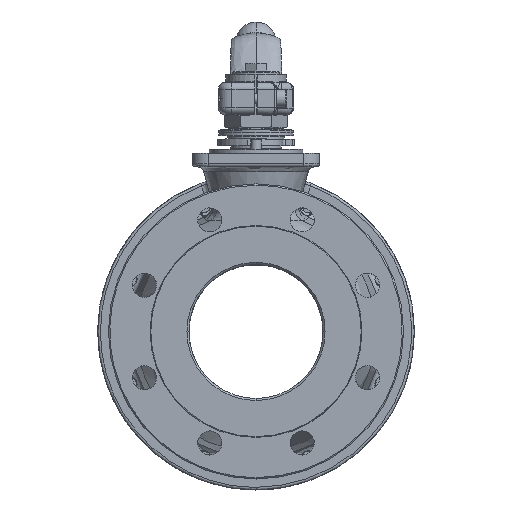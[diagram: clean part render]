
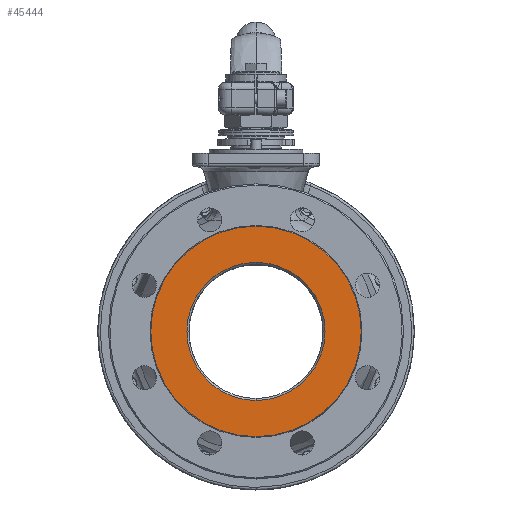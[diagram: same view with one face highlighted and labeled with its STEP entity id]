
A CAD part, top view. The second image highlights one B-rep face of the part: STEP entity #45444.
In plain terms, the highlighted planar face has unit normal (0, 0, 1) as drawn and (0, -1, 0) by its records, which use the part's own axes.
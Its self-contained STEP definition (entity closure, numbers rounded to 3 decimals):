
#349 = ORIENTED_EDGE ( 'NONE', *, *, #45231, .T. ) ;
#1739 = DIRECTION ( 'NONE',  ( -1., 0., 0. ) ) ;
#2448 = FACE_BOUND ( 'NONE', #12939, .T. ) ;
#4398 = CIRCLE ( 'NONE', #8166, 78.464 ) ;
#6630 = AXIS2_PLACEMENT_3D ( 'NONE', #27387, #12283, #46643 ) ;
#7354 = DIRECTION ( 'NONE',  ( 0., 0., -1. ) ) ;
#7522 = ORIENTED_EDGE ( 'NONE', *, *, #40024, .F. ) ;
#8166 = AXIS2_PLACEMENT_3D ( 'NONE', #21146, #47722, #1739 ) ;
#9576 = CIRCLE ( 'NONE', #11995, 51.5 ) ;
#11995 = AXIS2_PLACEMENT_3D ( 'NONE', #18593, #25796, #7354 ) ;
#12243 = CARTESIAN_POINT ( 'NONE',  ( -78.47, -69., -8.964 ) ) ;
#12283 = DIRECTION ( 'NONE',  ( 0., -1., 0. ) ) ;
#12939 = EDGE_LOOP ( 'NONE', ( #7522, #30259 ) ) ;
#13701 = DIRECTION ( 'NONE',  ( 0., 0., -1. ) ) ;
#16919 = VERTEX_POINT ( 'NONE', #42015 ) ;
#17188 = AXIS2_PLACEMENT_3D ( 'NONE', #47918, #36935, #13701 ) ;
#17343 = ORIENTED_EDGE ( 'NONE', *, *, #36665, .T. ) ;
#18593 = CARTESIAN_POINT ( 'NONE',  ( -0.006, -69., -8.964 ) ) ;
#19850 = EDGE_CURVE ( 'NONE', #40172, #20588, #31546, .T. ) ;
#20160 = DIRECTION ( 'NONE',  ( 0., -1., 0. ) ) ;
#20334 = CARTESIAN_POINT ( 'NONE',  ( -0.006, -69., -8.964 ) ) ;
#20588 = VERTEX_POINT ( 'NONE', #46540 ) ;
#21146 = CARTESIAN_POINT ( 'NONE',  ( -0.006, -69., -8.964 ) ) ;
#25796 = DIRECTION ( 'NONE',  ( 0., -1., 0. ) ) ;
#27106 = CARTESIAN_POINT ( 'NONE',  ( -0.006, -69., 42.536 ) ) ;
#27387 = CARTESIAN_POINT ( 'NONE',  ( -0.006, -69., -8.964 ) ) ;
#28830 = PLANE ( 'NONE',  #17188 ) ;
#30259 = ORIENTED_EDGE ( 'NONE', *, *, #19850, .F. ) ;
#30951 = DIRECTION ( 'NONE',  ( -1., 0., 0. ) ) ;
#31546 = CIRCLE ( 'NONE', #6630, 51.5 ) ;
#32765 = AXIS2_PLACEMENT_3D ( 'NONE', #20334, #20160, #30951 ) ;
#36665 = EDGE_CURVE ( 'NONE', #47538, #16919, #4398, .T. ) ;
#36935 = DIRECTION ( 'NONE',  ( 0., -1., 0. ) ) ;
#37469 = FACE_OUTER_BOUND ( 'NONE', #44153, .T. ) ;
#40024 = EDGE_CURVE ( 'NONE', #20588, #40172, #9576, .T. ) ;
#40172 = VERTEX_POINT ( 'NONE', #27106 ) ;
#42015 = CARTESIAN_POINT ( 'NONE',  ( 78.458, -69., -8.964 ) ) ;
#44153 = EDGE_LOOP ( 'NONE', ( #17343, #349 ) ) ;
#44670 = CIRCLE ( 'NONE', #32765, 78.464 ) ;
#45231 = EDGE_CURVE ( 'NONE', #16919, #47538, #44670, .T. ) ;
#45444 = ADVANCED_FACE ( 'NONE', ( #2448, #37469 ), #28830, .T. ) ;
#46540 = CARTESIAN_POINT ( 'NONE',  ( -0.006, -69., -60.464 ) ) ;
#46643 = DIRECTION ( 'NONE',  ( 0., 0., -1. ) ) ;
#47538 = VERTEX_POINT ( 'NONE', #12243 ) ;
#47722 = DIRECTION ( 'NONE',  ( 0., -1., 0. ) ) ;
#47918 = CARTESIAN_POINT ( 'NONE',  ( -0.006, -69., -48.196 ) ) ;
